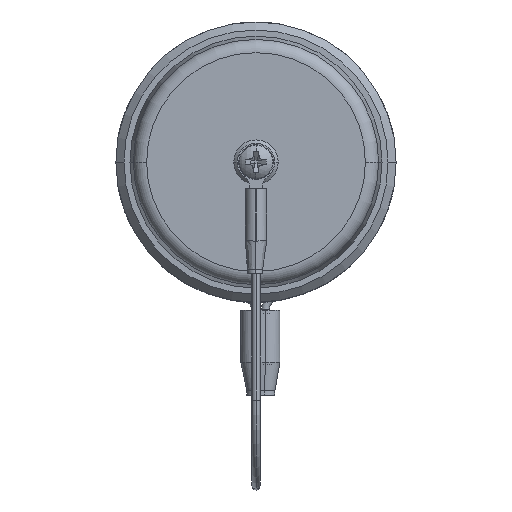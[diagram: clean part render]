
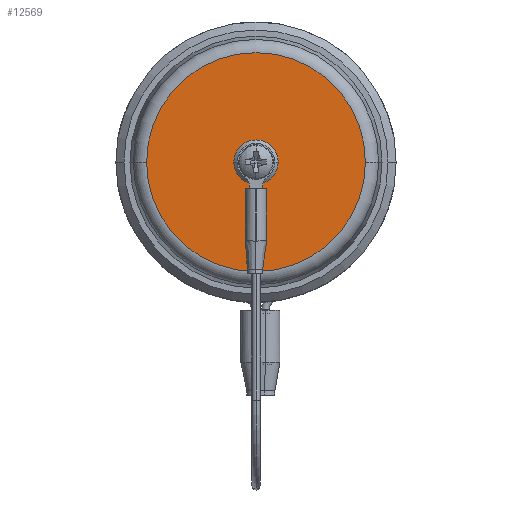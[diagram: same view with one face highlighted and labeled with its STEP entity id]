
A CAD part, top view. The second image highlights one B-rep face of the part: STEP entity #12569.
In plain terms, the highlighted planar face has unit normal (0, 0, 1).
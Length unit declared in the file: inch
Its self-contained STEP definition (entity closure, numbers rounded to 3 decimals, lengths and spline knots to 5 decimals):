
#18 = PLANE ( 'NONE',  #10063 ) ;
#393 = DIRECTION ( 'NONE',  ( 0., 0., -1. ) ) ;
#1023 = CARTESIAN_POINT ( 'NONE',  ( 0., 0., 0.307 ) ) ;
#1168 = AXIS2_PLACEMENT_3D ( 'NONE', #11292, #12278, #1501 ) ;
#1501 = DIRECTION ( 'NONE',  ( -1., 0., 0. ) ) ;
#1971 = VERTEX_POINT ( 'NONE', #10273 ) ;
#2106 = VERTEX_POINT ( 'NONE', #4321 ) ;
#2391 = VERTEX_POINT ( 'NONE', #10397 ) ;
#2529 = EDGE_CURVE ( 'NONE', #2106, #13300, #6547, .T. ) ;
#3577 = ORIENTED_EDGE ( 'NONE', *, *, #3621, .T. ) ;
#3621 = EDGE_CURVE ( 'NONE', #13300, #2106, #13954, .T. ) ;
#4012 = DIRECTION ( 'NONE',  ( -1., 0., 0. ) ) ;
#4294 = FACE_OUTER_BOUND ( 'NONE', #10254, .T. ) ;
#4321 = CARTESIAN_POINT ( 'NONE',  ( 0.165, 0., 0.307 ) ) ;
#4370 = CARTESIAN_POINT ( 'NONE',  ( 0., 0.81392, 0.307 ) ) ;
#4512 = DIRECTION ( 'NONE',  ( 0., 0., -1. ) ) ;
#4762 = DIRECTION ( 'NONE',  ( -1., 0., 0. ) ) ;
#4887 = DIRECTION ( 'NONE',  ( 0., 0., -1. ) ) ;
#5373 = DIRECTION ( 'NONE',  ( -1., 0., 0. ) ) ;
#5773 = ORIENTED_EDGE ( 'NONE', *, *, #2529, .T. ) ;
#5821 = EDGE_CURVE ( 'NONE', #1971, #2391, #7310, .T. ) ;
#6379 = DIRECTION ( 'NONE',  ( 0., 0., -1. ) ) ;
#6547 = CIRCLE ( 'NONE', #12479, 0.165 ) ;
#7052 = CARTESIAN_POINT ( 'NONE',  ( -0.165, 0., 0.307 ) ) ;
#7310 = CIRCLE ( 'NONE', #1168, 0.81392 ) ;
#7556 = FACE_BOUND ( 'NONE', #7916, .T. ) ;
#7766 = AXIS2_PLACEMENT_3D ( 'NONE', #9447, #4887, #4012 ) ;
#7916 = EDGE_LOOP ( 'NONE', ( #3577, #5773 ) ) ;
#8521 = AXIS2_PLACEMENT_3D ( 'NONE', #1023, #6379, #5373 ) ;
#8652 = DIRECTION ( 'NONE',  ( -1., 0., 0. ) ) ;
#9447 = CARTESIAN_POINT ( 'NONE',  ( 0., 0., 0.307 ) ) ;
#10063 = AXIS2_PLACEMENT_3D ( 'NONE', #4370, #4512, #8652 ) ;
#10130 = ORIENTED_EDGE ( 'NONE', *, *, #5821, .F. ) ;
#10254 = EDGE_LOOP ( 'NONE', ( #13492, #10130 ) ) ;
#10273 = CARTESIAN_POINT ( 'NONE',  ( 0.81392, 0., 0.307 ) ) ;
#10397 = CARTESIAN_POINT ( 'NONE',  ( -0.81392, 0., 0.307 ) ) ;
#11292 = CARTESIAN_POINT ( 'NONE',  ( 0., 0., 0.307 ) ) ;
#11710 = CIRCLE ( 'NONE', #8521, 0.81392 ) ;
#12278 = DIRECTION ( 'NONE',  ( 0., 0., -1. ) ) ;
#12309 = CARTESIAN_POINT ( 'NONE',  ( 0., 0., 0.307 ) ) ;
#12479 = AXIS2_PLACEMENT_3D ( 'NONE', #12309, #393, #4762 ) ;
#12569 = ADVANCED_FACE ( 'NONE', ( #4294, #7556 ), #18, .F. ) ;
#13300 = VERTEX_POINT ( 'NONE', #7052 ) ;
#13492 = ORIENTED_EDGE ( 'NONE', *, *, #13827, .F. ) ;
#13827 = EDGE_CURVE ( 'NONE', #2391, #1971, #11710, .T. ) ;
#13954 = CIRCLE ( 'NONE', #7766, 0.165 ) ;
